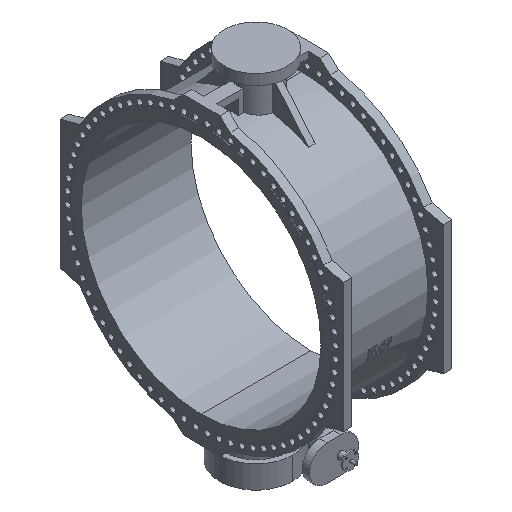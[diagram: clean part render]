
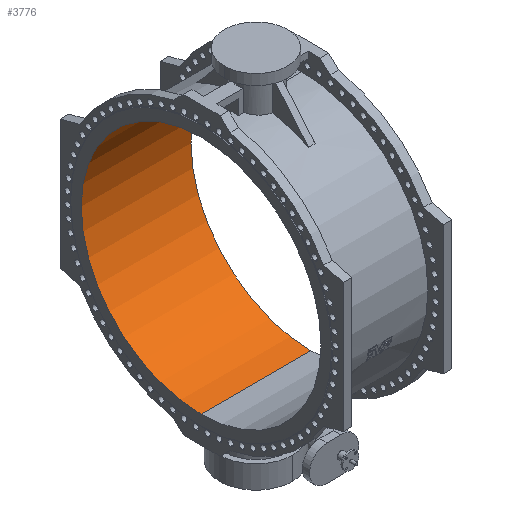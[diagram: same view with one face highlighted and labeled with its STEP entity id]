
A CAD part, isometric view. The second image highlights one B-rep face of the part: STEP entity #3776.
In plain terms, the highlighted cylindrical face has radius 1300 mm (diameter 2600 mm), a partial arc.
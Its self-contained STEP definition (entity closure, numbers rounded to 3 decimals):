
#765 = VERTEX_POINT ( 'NONE', #13053 ) ;
#2002 = EDGE_CURVE ( 'Defeatured_0_143+Defeatured_0_61+Defeatured_0_61+Defeatured_0_61', #7562, #8086, #13936, .T. ) ;
#2566 = CARTESIAN_POINT ( 'NONE',  ( -4442.621, 0., 1300. ) ) ;
#2691 = DIRECTION ( 'NONE',  ( 0., 0., -1. ) ) ;
#3184 = CARTESIAN_POINT ( 'NONE',  ( 595., 0., 1300. ) ) ;
#3313 = ORIENTED_EDGE ( 'NONE', *, *, #13078, .T. ) ;
#3429 = ORIENTED_EDGE ( 'NONE', *, *, #2002, .T. ) ;
#3776 = ADVANCED_FACE ( 'Defeatured_0_143', ( #13128 ), #12006, .F. ) ;
#4714 = ORIENTED_EDGE ( 'NONE', *, *, #8216, .T. ) ;
#5180 = DIRECTION ( 'NONE',  ( 1., 0., 0. ) ) ;
#5316 = DIRECTION ( 'NONE',  ( 1., 0., 0. ) ) ;
#5371 = AXIS2_PLACEMENT_3D ( 'NONE', #17026, #5180, #2691 ) ;
#5844 = DIRECTION ( 'NONE',  ( -1., 0., 0. ) ) ;
#5945 = VECTOR ( 'NONE', #10876, 1000. ) ;
#6401 = AXIS2_PLACEMENT_3D ( 'NONE', #12432, #5844, #11140 ) ;
#7232 = LINE ( 'NONE', #12258, #5945 ) ;
#7562 = VERTEX_POINT ( 'NONE', #8269 ) ;
#8086 = VERTEX_POINT ( 'NONE', #3184 ) ;
#8216 = EDGE_CURVE ( 'Defeatured_0_143+Defeatured_0_38+Defeatured_0_38+Defeatured_0_38', #765, #8224, #13577, .T. ) ;
#8224 = VERTEX_POINT ( 'NONE', #9923 ) ;
#8269 = CARTESIAN_POINT ( 'NONE',  ( 595., 0., -1300. ) ) ;
#9247 = DIRECTION ( 'NONE',  ( 0., 0., -1. ) ) ;
#9593 = VECTOR ( 'NONE', #5316, 1000. ) ;
#9923 = CARTESIAN_POINT ( 'NONE',  ( -595., 0., -1300. ) ) ;
#10694 = LINE ( 'NONE', #2566, #9593 ) ;
#10876 = DIRECTION ( 'NONE',  ( 1., 0., 0. ) ) ;
#11140 = DIRECTION ( 'NONE',  ( 0., 0., -1. ) ) ;
#11442 = ORIENTED_EDGE ( 'NONE', *, *, #14320, .F. ) ;
#12006 = CYLINDRICAL_SURFACE ( 'NONE', #14112, 1300. ) ;
#12258 = CARTESIAN_POINT ( 'NONE',  ( -4442.621, 0., -1300. ) ) ;
#12432 = CARTESIAN_POINT ( 'NONE',  ( -595., 0., 0. ) ) ;
#13053 = CARTESIAN_POINT ( 'NONE',  ( -595., 0., 1300. ) ) ;
#13078 = EDGE_CURVE ( 'NONE', #8224, #7562, #7232, .T. ) ;
#13128 = FACE_OUTER_BOUND ( 'NONE', #15664, .T. ) ;
#13577 = CIRCLE ( 'NONE', #6401, 1300. ) ;
#13936 = CIRCLE ( 'NONE', #5371, 1300. ) ;
#14112 = AXIS2_PLACEMENT_3D ( 'NONE', #17093, #15705, #9247 ) ;
#14320 = EDGE_CURVE ( 'NONE', #765, #8086, #10694, .T. ) ;
#15664 = EDGE_LOOP ( 'NONE', ( #11442, #4714, #3313, #3429 ) ) ;
#15705 = DIRECTION ( 'NONE',  ( 1., 0., 0. ) ) ;
#17026 = CARTESIAN_POINT ( 'NONE',  ( 595., 0., 0. ) ) ;
#17093 = CARTESIAN_POINT ( 'NONE',  ( -4442.621, 0., 0. ) ) ;
